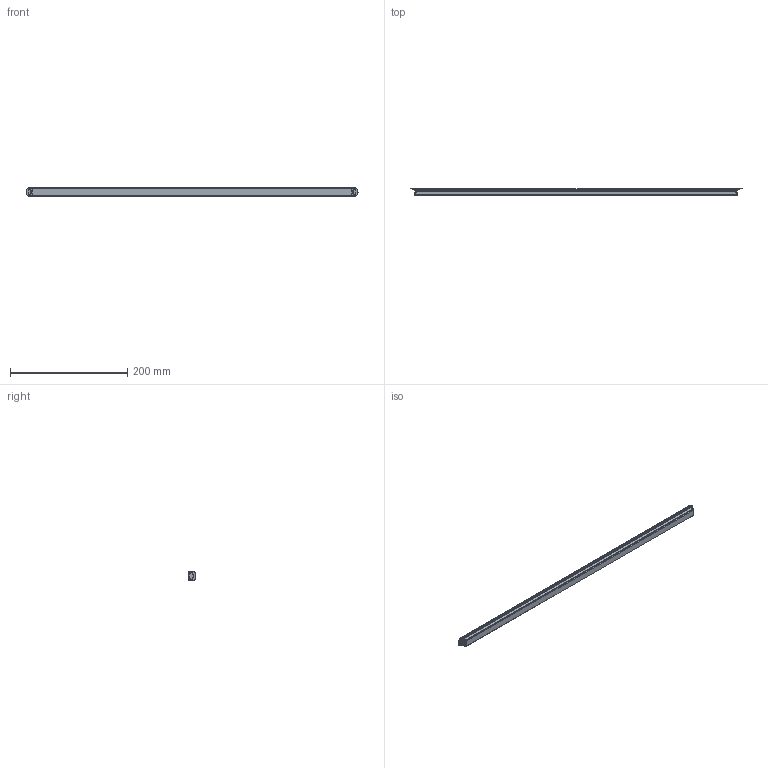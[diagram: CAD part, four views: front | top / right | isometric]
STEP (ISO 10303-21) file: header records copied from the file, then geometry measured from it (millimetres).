
FILE_DESCRIPTION(/* description */ (''),/* implementation_level */ '2;1');
FILE_NAME(/* name */ '6113031_Malindi_Aluprofil_sldprt.stp',/* time_stamp */ '2019-06-07T07:31:28+02:00',/* author */ (''),/* organization */ (''),/* preprocessor_version */ 'ST-DEVELOPER v16.7',/* originating_system */ 'SIEMENS PLM Software NX 12.0',/* authorisation */ '');
FILE_SCHEMA (('AUTOMOTIVE_DESIGN { 1 0 10303 214 3 1 1 1 }'));
Length unit declared in the file: millimetre
Products named in the file (1): p.sc0DF892D9pptp
Bounding box: 567 x 11.28 x 17 mm (x, y, z)
Volume: 83554.5 mm3; surface area: 44930.8 mm2
Topology: 1 solids, 1 shells, 206 faces, 570 edges, 368 vertices
Faces by surface type: plane 93, cylinder 79, bspline 12, torus 12, cone 8, sphere 2
Entity records: 7615 total; most frequent: CARTESIAN_POINT 2219, ORIENTED_EDGE 1140, DIRECTION 1130, EDGE_CURVE 570, AXIS2_PLACEMENT_3D 391, VERTEX_POINT 368, LINE 348, VECTOR 348
